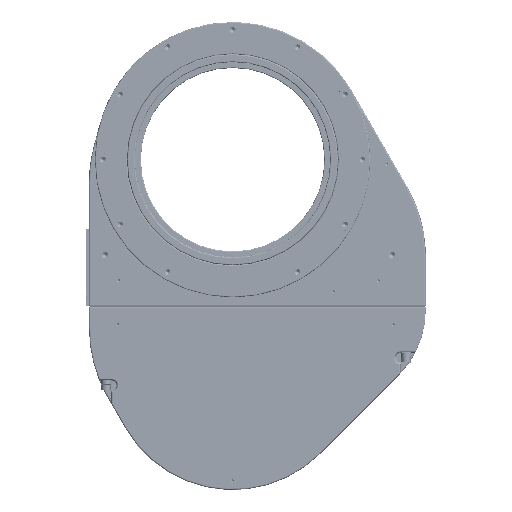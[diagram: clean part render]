
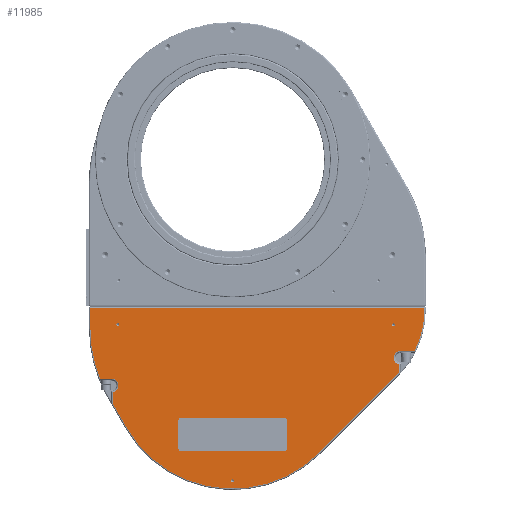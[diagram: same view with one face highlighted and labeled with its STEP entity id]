
A CAD part, top view. The second image highlights one B-rep face of the part: STEP entity #11985.
In plain terms, the highlighted planar face has unit normal (0, 0, 1).
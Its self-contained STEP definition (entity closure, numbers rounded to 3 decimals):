
#11985=ADVANCED_FACE('',(#15797,#15798,#15799,#15800),#14192,.T.);
#14192=PLANE('',#49939);
#15797=FACE_BOUND('',#18085,.T.);
#15798=FACE_BOUND('',#18086,.T.);
#15799=FACE_BOUND('',#18087,.T.);
#15800=FACE_BOUND('',#18088,.T.);
#18085=EDGE_LOOP('',(#24099,#24100,#24101,#24102,#24103,#24104,#24105,#24106,
#24107,#24108,#24109,#24110,#24111,#24112,#24113));
#18086=EDGE_LOOP('',(#24114));
#18087=EDGE_LOOP('',(#24115));
#18088=EDGE_LOOP('',(#24116));
#21646=CIRCLE('',#49930,133.5);
#21647=CIRCLE('',#49931,98.5);
#21648=CIRCLE('',#49932,7.5);
#21649=CIRCLE('',#49933,98.5);
#21650=CIRCLE('',#49934,148.5);
#21651=CIRCLE('',#49935,7.5);
#21652=CIRCLE('',#49936,1.65);
#21653=CIRCLE('',#49937,1.65);
#21654=CIRCLE('',#49938,1.65);
#24099=ORIENTED_EDGE('',*,*,#38678,.T.);
#24100=ORIENTED_EDGE('',*,*,#38679,.T.);
#24101=ORIENTED_EDGE('',*,*,#38680,.T.);
#24102=ORIENTED_EDGE('',*,*,#38681,.T.);
#24103=ORIENTED_EDGE('',*,*,#38682,.T.);
#24104=ORIENTED_EDGE('',*,*,#38683,.T.);
#24105=ORIENTED_EDGE('',*,*,#38684,.T.);
#24106=ORIENTED_EDGE('',*,*,#38685,.T.);
#24107=ORIENTED_EDGE('',*,*,#38686,.T.);
#24108=ORIENTED_EDGE('',*,*,#38687,.T.);
#24109=ORIENTED_EDGE('',*,*,#38688,.T.);
#24110=ORIENTED_EDGE('',*,*,#38689,.T.);
#24111=ORIENTED_EDGE('',*,*,#38690,.T.);
#24112=ORIENTED_EDGE('',*,*,#38691,.T.);
#24113=ORIENTED_EDGE('',*,*,#38692,.T.);
#24114=ORIENTED_EDGE('',*,*,#38693,.F.);
#24115=ORIENTED_EDGE('',*,*,#38694,.F.);
#24116=ORIENTED_EDGE('',*,*,#38695,.F.);
#34472=VERTEX_POINT('',#66459);
#34473=VERTEX_POINT('',#66460);
#34474=VERTEX_POINT('',#66462);
#34475=VERTEX_POINT('',#66464);
#34476=VERTEX_POINT('',#66466);
#34477=VERTEX_POINT('',#66468);
#34478=VERTEX_POINT('',#66470);
#34479=VERTEX_POINT('',#66472);
#34480=VERTEX_POINT('',#66474);
#34481=VERTEX_POINT('',#66476);
#34482=VERTEX_POINT('',#66478);
#34483=VERTEX_POINT('',#66480);
#34484=VERTEX_POINT('',#66482);
#34485=VERTEX_POINT('',#66484);
#34486=VERTEX_POINT('',#66486);
#34487=VERTEX_POINT('',#66489);
#34488=VERTEX_POINT('',#66491);
#34489=VERTEX_POINT('',#66493);
#38678=EDGE_CURVE('',#34472,#34473,#43790,.T.);
#38679=EDGE_CURVE('',#34473,#34474,#43791,.T.);
#38680=EDGE_CURVE('',#34474,#34475,#21646,.T.);
#38681=EDGE_CURVE('',#34475,#34476,#43792,.T.);
#38682=EDGE_CURVE('',#34476,#34477,#21647,.T.);
#38683=EDGE_CURVE('',#34477,#34478,#43793,.T.);
#38684=EDGE_CURVE('',#34478,#34479,#21648,.T.);
#38685=EDGE_CURVE('',#34479,#34480,#43794,.T.);
#38686=EDGE_CURVE('',#34480,#34481,#21649,.T.);
#38687=EDGE_CURVE('',#34481,#34482,#43795,.T.);
#38688=EDGE_CURVE('',#34482,#34483,#43796,.T.);
#38689=EDGE_CURVE('',#34483,#34484,#43797,.T.);
#38690=EDGE_CURVE('',#34484,#34485,#21650,.T.);
#38691=EDGE_CURVE('',#34485,#34486,#43798,.T.);
#38692=EDGE_CURVE('',#34486,#34472,#21651,.T.);
#38693=EDGE_CURVE('',#34487,#34487,#21652,.T.);
#38694=EDGE_CURVE('',#34488,#34488,#21653,.T.);
#38695=EDGE_CURVE('',#34489,#34489,#21654,.T.);
#43790=LINE('',#66458,#46570);
#43791=LINE('',#66461,#46571);
#43792=LINE('',#66465,#46572);
#43793=LINE('',#66469,#46573);
#43794=LINE('',#66473,#46574);
#43795=LINE('',#66477,#46575);
#43796=LINE('',#66479,#46576);
#43797=LINE('',#66481,#46577);
#43798=LINE('',#66485,#46578);
#46570=VECTOR('',#54956,1.);
#46571=VECTOR('',#54957,1.);
#46572=VECTOR('',#54960,1.);
#46573=VECTOR('',#54963,1.);
#46574=VECTOR('',#54966,1.);
#46575=VECTOR('',#54969,1.);
#46576=VECTOR('',#54970,1.);
#46577=VECTOR('',#54971,1.);
#46578=VECTOR('',#54974,1.);
#49930=AXIS2_PLACEMENT_3D('',#66463,#54958,#54959);
#49931=AXIS2_PLACEMENT_3D('',#66467,#54961,#54962);
#49932=AXIS2_PLACEMENT_3D('',#66471,#54964,#54965);
#49933=AXIS2_PLACEMENT_3D('',#66475,#54967,#54968);
#49934=AXIS2_PLACEMENT_3D('',#66483,#54972,#54973);
#49935=AXIS2_PLACEMENT_3D('',#66487,#54975,#54976);
#49936=AXIS2_PLACEMENT_3D('',#66488,#54977,#54978);
#49937=AXIS2_PLACEMENT_3D('',#66490,#54979,#54980);
#49938=AXIS2_PLACEMENT_3D('',#66492,#54981,#54982);
#49939=AXIS2_PLACEMENT_3D('',#66494,#54983,#54984);
#54956=DIRECTION('',(0.,-1.,0.));
#54957=DIRECTION('',(0.5,-0.866,0.));
#54958=DIRECTION('',(0.,0.,1.));
#54959=DIRECTION('',(1.,0.,0.));
#54960=DIRECTION('',(0.707,0.707,0.));
#54961=DIRECTION('',(0.,0.,1.));
#54962=DIRECTION('',(1.,0.,0.));
#54963=DIRECTION('',(0.,1.,0.));
#54964=DIRECTION('',(0.,0.,-1.));
#54965=DIRECTION('',(1.,0.,0.));
#54966=DIRECTION('',(1.,0.,0.));
#54967=DIRECTION('',(0.,0.,1.));
#54968=DIRECTION('',(1.,0.,0.));
#54969=DIRECTION('',(0.,1.,0.));
#54970=DIRECTION('',(-1.,0.,0.));
#54971=DIRECTION('',(0.,-1.,0.));
#54972=DIRECTION('',(0.,0.,1.));
#54973=DIRECTION('',(1.,0.,0.));
#54974=DIRECTION('',(1.,0.,0.));
#54975=DIRECTION('',(0.,0.,-1.));
#54976=DIRECTION('',(1.,0.,0.));
#54977=DIRECTION('',(0.,0.,1.));
#54978=DIRECTION('',(1.,0.,0.));
#54979=DIRECTION('',(0.,0.,1.));
#54980=DIRECTION('',(1.,0.,0.));
#54981=DIRECTION('',(0.,0.,1.));
#54982=DIRECTION('',(1.,0.,0.));
#54983=DIRECTION('',(0.,0.,1.));
#54984=DIRECTION('',(1.,0.,0.));
#66458=CARTESIAN_POINT('',(-130.5,-105.967,71.));
#66459=CARTESIAN_POINT('',(-130.5,-93.348,71.));
#66460=CARTESIAN_POINT('',(-130.5,-105.967,71.));
#66461=CARTESIAN_POINT('',(-115.614,-131.75,71.));
#66462=CARTESIAN_POINT('',(-115.614,-131.75,71.));
#66463=CARTESIAN_POINT('',(0.,-65.,71.));
#66464=CARTESIAN_POINT('',(94.399,-159.399,71.));
#66465=CARTESIAN_POINT('',(180.15,-73.647,71.));
#66466=CARTESIAN_POINT('',(180.15,-73.647,71.));
#66467=CARTESIAN_POINT('',(110.5,-3.997,71.));
#66468=CARTESIAN_POINT('',(181.5,-72.271,71.));
#66469=CARTESIAN_POINT('',(181.5,-23.742,71.));
#66470=CARTESIAN_POINT('',(181.5,-63.348,71.));
#66471=CARTESIAN_POINT('',(183.,-56.,71.));
#66472=CARTESIAN_POINT('',(183.,-48.5,71.));
#66473=CARTESIAN_POINT('',(-6.5,-48.5,71.));
#66474=CARTESIAN_POINT('',(198.374,-48.5,71.));
#66475=CARTESIAN_POINT('',(110.5,-3.997,71.));
#66476=CARTESIAN_POINT('',(209.,-3.997,71.));
#66477=CARTESIAN_POINT('',(209.,0.,71.));
#66478=CARTESIAN_POINT('',(209.,-1.5,71.));
#66479=CARTESIAN_POINT('',(-156.5,-1.5,71.));
#66480=CARTESIAN_POINT('',(-155.,-1.5,71.));
#66481=CARTESIAN_POINT('',(-155.,-23.742,71.));
#66482=CARTESIAN_POINT('',(-155.,-23.742,71.));
#66483=CARTESIAN_POINT('',(-6.5,-23.742,71.));
#66484=CARTESIAN_POINT('',(-144.535,-78.5,71.));
#66485=CARTESIAN_POINT('',(-132.,-78.5,71.));
#66486=CARTESIAN_POINT('',(-132.,-78.5,71.));
#66487=CARTESIAN_POINT('',(-132.,-86.,71.));
#66488=CARTESIAN_POINT('',(0.,-190.,71.));
#66489=CARTESIAN_POINT('',(1.65,-190.,71.));
#66490=CARTESIAN_POINT('',(-125.,-20.,71.));
#66491=CARTESIAN_POINT('',(-123.35,-20.,71.));
#66492=CARTESIAN_POINT('',(175.,-20.,71.));
#66493=CARTESIAN_POINT('',(176.65,-20.,71.));
#66494=CARTESIAN_POINT('',(-6.5,-23.742,71.));
